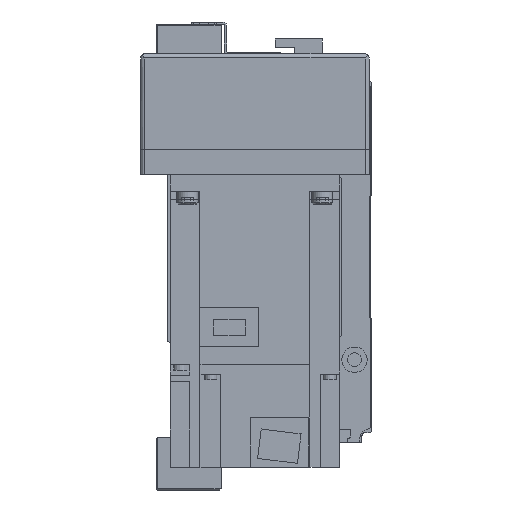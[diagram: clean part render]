
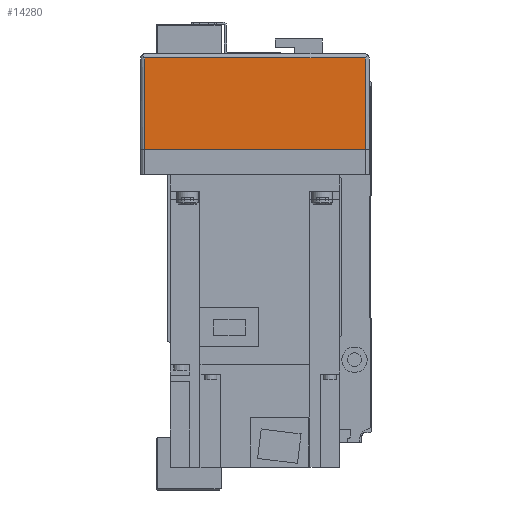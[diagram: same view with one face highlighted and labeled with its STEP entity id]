
A CAD part, left-side view. The second image highlights one B-rep face of the part: STEP entity #14280.
In plain terms, the highlighted planar face has unit normal (-1, 0, 0).
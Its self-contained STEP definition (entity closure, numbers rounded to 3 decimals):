
#2568=ORIENTED_EDGE('',*,*,#5910,.T.);
#2569=ORIENTED_EDGE('',*,*,#5838,.T.);
#2570=ORIENTED_EDGE('',*,*,#5911,.F.);
#2571=ORIENTED_EDGE('',*,*,#5850,.F.);
#5838=EDGE_CURVE('',#7658,#7661,#9156,.T.);
#5850=EDGE_CURVE('',#7668,#7670,#9161,.T.);
#5910=EDGE_CURVE('',#7668,#7658,#9203,.T.);
#5911=EDGE_CURVE('',#7670,#7661,#9204,.T.);
#7658=VERTEX_POINT('',#22385);
#7661=VERTEX_POINT('',#22391);
#7668=VERTEX_POINT('',#22414);
#7670=VERTEX_POINT('',#22417);
#9156=LINE('',#22392,#10469);
#9161=LINE('',#22416,#10474);
#9203=LINE('',#22540,#10516);
#9204=LINE('',#22541,#10517);
#10469=VECTOR('',#17857,1000.);
#10474=VECTOR('',#17884,1000.);
#10516=VECTOR('',#18004,1000.);
#10517=VECTOR('',#18005,1000.);
#11625=EDGE_LOOP('',(#2568,#2569,#2570,#2571));
#12736=FACE_BOUND('',#11625,.T.);
#13679=PLANE('',#15355);
#14280=ADVANCED_FACE('',(#12736),#13679,.T.);
#15355=AXIS2_PLACEMENT_3D('',#22539,#18002,#18003);
#17857=DIRECTION('',(0.,0.,1.));
#17884=DIRECTION('',(0.,0.,1.));
#18002=DIRECTION('',(-1.,0.,0.));
#18003=DIRECTION('',(0.,0.,1.));
#18004=DIRECTION('',(0.,-1.,0.));
#18005=DIRECTION('',(0.,-1.,0.));
#22385=CARTESIAN_POINT('',(-230.,-52.,-55.));
#22391=CARTESIAN_POINT('',(-230.,-52.,-12.));
#22392=CARTESIAN_POINT('',(-230.,-52.,-57.));
#22414=CARTESIAN_POINT('',(-230.,52.,-55.));
#22416=CARTESIAN_POINT('',(-230.,52.,-57.));
#22417=CARTESIAN_POINT('',(-230.,52.,-12.));
#22539=CARTESIAN_POINT('',(-230.,52.,-57.));
#22540=CARTESIAN_POINT('',(-230.,54.,-55.));
#22541=CARTESIAN_POINT('',(-230.,52.,-12.));
